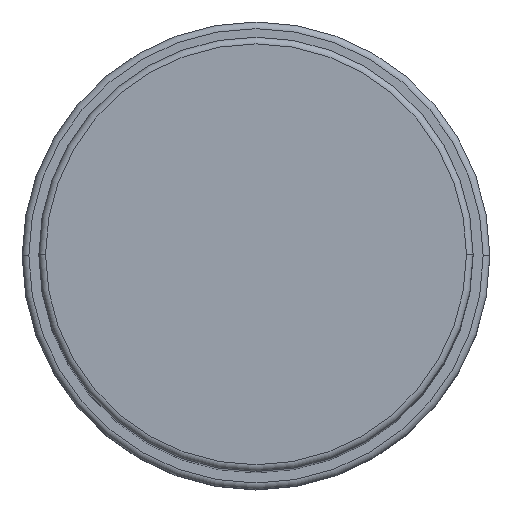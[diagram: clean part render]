
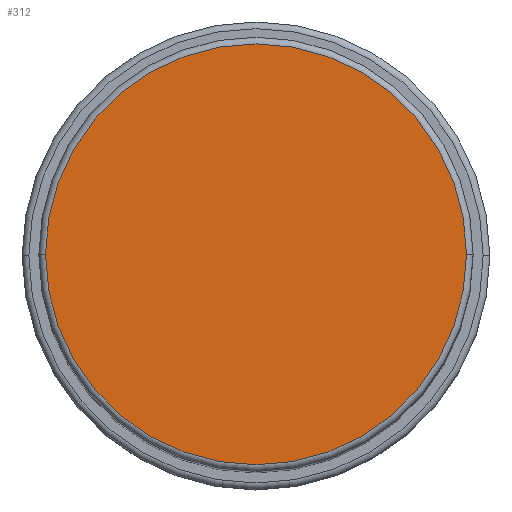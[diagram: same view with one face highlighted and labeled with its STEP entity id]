
A CAD part, top view. The second image highlights one B-rep face of the part: STEP entity #312.
In plain terms, the highlighted planar face has unit normal (0, 0, 1).
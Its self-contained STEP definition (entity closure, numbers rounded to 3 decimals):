
#60 = CARTESIAN_POINT ( 'NONE',  ( 0., 0., 143. ) ) ;
#125 = CARTESIAN_POINT ( 'NONE',  ( 0., 0., 143. ) ) ;
#245 = DIRECTION ( 'NONE',  ( 1., 0., 0. ) ) ;
#254 = CARTESIAN_POINT ( 'NONE',  ( -31.5, 0., 143. ) ) ;
#272 = CIRCLE ( 'NONE', #451, 31.5 ) ;
#280 = DIRECTION ( 'NONE',  ( 0., 0., 1. ) ) ;
#312 = ADVANCED_FACE ( 'NONE', ( #853 ), #1672, .T. ) ;
#379 = DIRECTION ( 'NONE',  ( 1., 0., 0. ) ) ;
#451 = AXIS2_PLACEMENT_3D ( 'NONE', #60, #1127, #379 ) ;
#475 = CIRCLE ( 'NONE', #1153, 31.5 ) ;
#565 = DIRECTION ( 'NONE',  ( 0., 0., 1. ) ) ;
#615 = VERTEX_POINT ( 'NONE', #254 ) ;
#853 = FACE_OUTER_BOUND ( 'NONE', #1674, .T. ) ;
#862 = VERTEX_POINT ( 'NONE', #1252 ) ;
#1127 = DIRECTION ( 'NONE',  ( 0., 0., 1. ) ) ;
#1153 = AXIS2_PLACEMENT_3D ( 'NONE', #1645, #565, #245 ) ;
#1251 = ORIENTED_EDGE ( 'NONE', *, *, #1343, .T. ) ;
#1252 = CARTESIAN_POINT ( 'NONE',  ( 31.5, 0., 143. ) ) ;
#1269 = ORIENTED_EDGE ( 'NONE', *, *, #1781, .T. ) ;
#1343 = EDGE_CURVE ( 'NONE', #862, #615, #475, .T. ) ;
#1645 = CARTESIAN_POINT ( 'NONE',  ( 0., 0., 143. ) ) ;
#1672 = PLANE ( 'NONE',  #1812 ) ;
#1674 = EDGE_LOOP ( 'NONE', ( #1251, #1269 ) ) ;
#1690 = DIRECTION ( 'NONE',  ( 1., 0., 0. ) ) ;
#1781 = EDGE_CURVE ( 'NONE', #615, #862, #272, .T. ) ;
#1812 = AXIS2_PLACEMENT_3D ( 'NONE', #125, #280, #1690 ) ;
